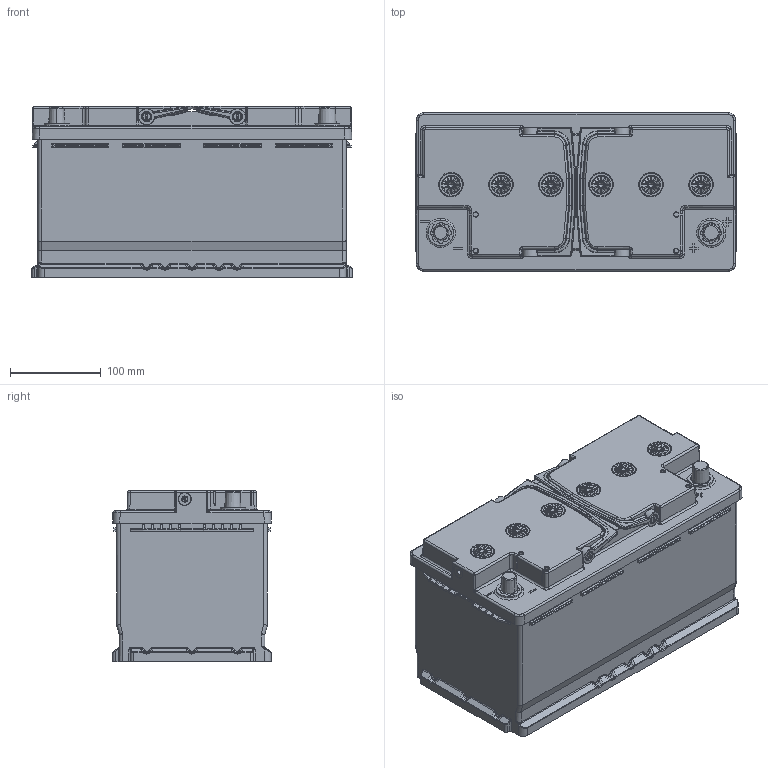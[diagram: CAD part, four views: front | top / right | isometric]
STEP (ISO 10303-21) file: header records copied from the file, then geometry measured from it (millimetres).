
FILE_DESCRIPTION(('CATIA V5 STEP Exchange'),'2;1');
FILE_NAME('G:\PE\KQ data\Groups\Engineering\Old documents\Yayong He\AGM drawing\AGM H8 3D.stp','2017-06-20T07:50:06+00:00',('none'),('none'),'CATIA Version 5 Release 20 GA (IN-10)','CATIA V5 STEP AP203','none');
FILE_SCHEMA(('CONFIG_CONTROL_DESIGN'));
Products named in the file (1): AGM H8
Bounding box: 352.5 x 174.8 x 188.51 mm (x, y, z)
Volume: 10287726.4 mm3; surface area: 397549.8 mm2
Topology: 1 solids, 1 shells, 5835 faces, 17373 edges, 11527 vertices
Faces by surface type: cylinder 2133, plane 1393, bspline 978, sphere 623, cone 462, torus 246
Entity records: 226557 total; most frequent: CARTESIAN_POINT 94952, ORIENTED_EDGE 34216, DIRECTION 17929, EDGE_CURVE 17108, VERTEX_POINT 11523, AXIS2_PLACEMENT_3D 7429, B_SPLINE_CURVE_WITH_KNOTS 6433, EDGE_LOOP 6105
